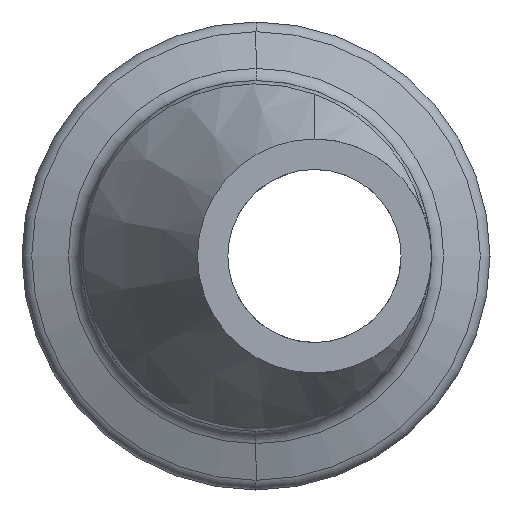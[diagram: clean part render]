
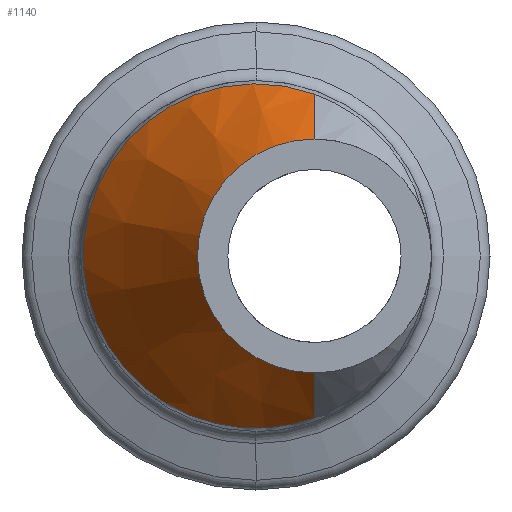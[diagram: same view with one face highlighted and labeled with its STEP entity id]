
A CAD part, left-side view. The second image highlights one B-rep face of the part: STEP entity #1140.
In plain terms, the highlighted conical face has half-angle 35 degrees and reference radius 6.35 mm.
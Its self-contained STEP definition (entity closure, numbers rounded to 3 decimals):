
#96 = CARTESIAN_POINT ( 'NONE',  ( -4.459, -3.174, -8.786 ) ) ;
#101 = ORIENTED_EDGE ( 'NONE', *, *, #392, .T. ) ;
#102 = CARTESIAN_POINT ( 'NONE',  ( -3.429, -1.108, -9.298 ) ) ;
#189 = CARTESIAN_POINT ( 'NONE',  ( -1.369, 3.504, 8.684 ) ) ;
#193 = CARTESIAN_POINT ( 'NONE',  ( -4.459, -3.174, 8.786 ) ) ;
#197 = CARTESIAN_POINT ( 'NONE',  ( -2.597, 0.682, 9.33 ) ) ;
#211 = CARTESIAN_POINT ( 'NONE',  ( -4.113, -2.496, 9.009 ) ) ;
#215 = CARTESIAN_POINT ( 'NONE',  ( -1.808, 2.466, 9.052 ) ) ;
#229 = CARTESIAN_POINT ( 'NONE',  ( 0.891, 9.286, 1.555 ) ) ;
#235 = CARTESIAN_POINT ( 'NONE',  ( -2.114, 1.76, 9.212 ) ) ;
#257 = CARTESIAN_POINT ( 'NONE',  ( -3.095, -0.4, -9.343 ) ) ;
#345 = CARTESIAN_POINT ( 'NONE',  ( 0.783, 8.991, 2.705 ) ) ;
#371 = CARTESIAN_POINT ( 'NONE',  ( -3.261, -0.751, 9.321 ) ) ;
#386 = CARTESIAN_POINT ( 'NONE',  ( 0.926, 9.382, -0.412 ) ) ;
#392 = EDGE_CURVE ( 'NONE', #598, #464, #665, .T. ) ;
#418 = EDGE_LOOP ( 'NONE', ( #743, #101, #1331, #1077 ) ) ;
#425 = FACE_OUTER_BOUND ( 'NONE', #418, .T. ) ;
#440 = CARTESIAN_POINT ( 'NONE',  ( -7.938, -3.174, 6.35 ) ) ;
#456 = AXIS2_PLACEMENT_3D ( 'NONE', #769, #1295, #892 ) ;
#464 = VERTEX_POINT ( 'NONE', #963 ) ;
#467 = CARTESIAN_POINT ( 'NONE',  ( 0.927, 9.384, 0.776 ) ) ;
#474 = CARTESIAN_POINT ( 'NONE',  ( 0.879, 9.254, -1.592 ) ) ;
#478 = CARTESIAN_POINT ( 'NONE',  ( -2.762, 0.32, 9.348 ) ) ;
#486 = CARTESIAN_POINT ( 'NONE',  ( 0.917, 9.356, -0.811 ) ) ;
#494 = CARTESIAN_POINT ( 'NONE',  ( 0.779, 8.982, -2.733 ) ) ;
#513 = CARTESIAN_POINT ( 'NONE',  ( 0.852, 9.179, -1.976 ) ) ;
#535 = CARTESIAN_POINT ( 'NONE',  ( -7.938, -3.174, -6.35 ) ) ;
#590 = CARTESIAN_POINT ( 'NONE',  ( 0.177, 7.377, 5.796 ) ) ;
#595 = CARTESIAN_POINT ( 'NONE',  ( 0.625, 8.566, -3.839 ) ) ;
#598 = VERTEX_POINT ( 'NONE', #440 ) ;
#604 = CARTESIAN_POINT ( 'NONE',  ( 0.422, 8.024, -4.866 ) ) ;
#617 = EDGE_CURVE ( 'NONE', #1159, #1558, #1212, .T. ) ;
#644 = DIRECTION ( 'NONE',  ( 0.819, 0., 0.574 ) ) ;
#655 = CIRCLE ( 'NONE', #456, 6.35 ) ;
#665 = LINE ( 'NONE', #881, #965 ) ;
#681 = AXIS2_PLACEMENT_3D ( 'NONE', #1485, #1626, #1530 ) ;
#695 = DIRECTION ( 'NONE',  ( 0.819, 0., -0.574 ) ) ;
#709 = CARTESIAN_POINT ( 'NONE',  ( 0.563, 8.399, -4.19 ) ) ;
#712 = CARTESIAN_POINT ( 'NONE',  ( 0.173, 7.366, -5.81 ) ) ;
#723 = CARTESIAN_POINT ( 'NONE',  ( 0.344, 7.818, -5.189 ) ) ;
#738 = CARTESIAN_POINT ( 'NONE',  ( -3.769, -1.804, 9.173 ) ) ;
#743 = ORIENTED_EDGE ( 'NONE', *, *, #1388, .T. ) ;
#769 = CARTESIAN_POINT ( 'NONE',  ( -7.938, -3.174, 0. ) ) ;
#825 = VECTOR ( 'NONE', #695, 1000. ) ;
#848 = CARTESIAN_POINT ( 'NONE',  ( 0.35, 7.831, 5.169 ) ) ;
#851 = B_SPLINE_CURVE_WITH_KNOTS ( 'NONE', 3,
 ( #193, #856, #211, #738, #1091, #371, #1245, #478, #197, #235, #215, #189, #1504, #1117, #1238, #1664, #1228, #1378, #1646, #1249, #590, #848, #1110, #1682, #1383, #960, #345, #229, #467, #386, #486, #474, #513, #494, #858, #595, #709, #604, #723, #712, #886, #860, #1024, #1018, #984, #1171, #1153, #1130, #1267, #1259, #1254, #257, #102, #993, #1143, #1553, #1510 ),
 .UNSPECIFIED., .F., .F.,
 ( 4, 2, 2, 2, 2, 2, 2, 2, 2, 2, 2, 2, 2, 2, 2, 2, 2, 2, 2, 2, 2, 2, 2, 2, 2, 2, 1, 2, 4 ),
 ( 0.018, 0.019, 0.021, 0.022, 0.023, 0.025, 0.026, 0.028, 0.029, 0.03, 0.031, 0.032, 0.034, 0.035, 0.037, 0.038, 0.04, 0.041, 0.042, 0.043, 0.044, 0.047, 0.048, 0.049, 0.051, 0.053, 0.054, 0.055, 0.056 ),
 .UNSPECIFIED. ) ;
#856 = CARTESIAN_POINT ( 'NONE',  ( -4.287, -2.84, 8.906 ) ) ;
#858 = CARTESIAN_POINT ( 'NONE',  ( 0.734, 8.86, -3.107 ) ) ;
#860 = CARTESIAN_POINT ( 'NONE',  ( -0.225, 6.333, -6.947 ) ) ;
#881 = CARTESIAN_POINT ( 'NONE',  ( -7.938, -3.174, 6.35 ) ) ;
#886 = CARTESIAN_POINT ( 'NONE',  ( 0.078, 7.119, -6.108 ) ) ;
#892 = DIRECTION ( 'NONE',  ( 0., 0., -1. ) ) ;
#960 = CARTESIAN_POINT ( 'NONE',  ( 0.737, 8.869, 3.081 ) ) ;
#963 = CARTESIAN_POINT ( 'NONE',  ( -4.459, -3.174, 8.786 ) ) ;
#965 = VECTOR ( 'NONE', #644, 1000. ) ;
#984 = CARTESIAN_POINT ( 'NONE',  ( -0.96, 4.494, -8.22 ) ) ;
#993 = CARTESIAN_POINT ( 'NONE',  ( -3.769, -1.805, -9.173 ) ) ;
#1018 = CARTESIAN_POINT ( 'NONE',  ( -0.828, 4.82, -8.035 ) ) ;
#1024 = CARTESIAN_POINT ( 'NONE',  ( -0.451, 5.756, -7.426 ) ) ;
#1077 = ORIENTED_EDGE ( 'NONE', *, *, #617, .F. ) ;
#1091 = CARTESIAN_POINT ( 'NONE',  ( -3.598, -1.455, 9.236 ) ) ;
#1110 = CARTESIAN_POINT ( 'NONE',  ( 0.429, 8.041, 4.838 ) ) ;
#1117 = CARTESIAN_POINT ( 'NONE',  ( -0.953, 4.511, 8.211 ) ) ;
#1130 = CARTESIAN_POINT ( 'NONE',  ( -1.811, 2.458, -9.054 ) ) ;
#1140 = ADVANCED_FACE ( 'NONE', ( #425 ), #1379, .T. ) ;
#1143 = CARTESIAN_POINT ( 'NONE',  ( -4.113, -2.497, -9.009 ) ) ;
#1153 = CARTESIAN_POINT ( 'NONE',  ( -1.376, 3.488, -8.69 ) ) ;
#1159 = VERTEX_POINT ( 'NONE', #1568 ) ;
#1171 = CARTESIAN_POINT ( 'NONE',  ( -1.235, 3.826, -8.548 ) ) ;
#1212 = LINE ( 'NONE', #535, #825 ) ;
#1228 = CARTESIAN_POINT ( 'NONE',  ( -0.454, 5.752, 7.401 ) ) ;
#1238 = CARTESIAN_POINT ( 'NONE',  ( -0.823, 4.832, 8.028 ) ) ;
#1245 = CARTESIAN_POINT ( 'NONE',  ( -3.094, -0.396, 9.343 ) ) ;
#1249 = CARTESIAN_POINT ( 'NONE',  ( 0.083, 7.132, 6.093 ) ) ;
#1254 = CARTESIAN_POINT ( 'NONE',  ( -2.765, 0.313, -9.348 ) ) ;
#1259 = CARTESIAN_POINT ( 'NONE',  ( -2.601, 0.673, -9.33 ) ) ;
#1267 = CARTESIAN_POINT ( 'NONE',  ( -2.117, 1.754, -9.213 ) ) ;
#1295 = DIRECTION ( 'NONE',  ( 1., 0., 0. ) ) ;
#1331 = ORIENTED_EDGE ( 'NONE', *, *, #1522, .T. ) ;
#1378 = CARTESIAN_POINT ( 'NONE',  ( -0.227, 6.329, 6.918 ) ) ;
#1379 = CONICAL_SURFACE ( 'NONE', #681, 6.35, 0.611 ) ;
#1383 = CARTESIAN_POINT ( 'NONE',  ( 0.631, 8.581, 3.806 ) ) ;
#1388 = EDGE_CURVE ( 'NONE', #1159, #598, #655, .T. ) ;
#1485 = CARTESIAN_POINT ( 'NONE',  ( -7.938, -3.174, 0. ) ) ;
#1504 = CARTESIAN_POINT ( 'NONE',  ( -1.226, 3.848, 8.539 ) ) ;
#1510 = CARTESIAN_POINT ( 'NONE',  ( -4.459, -3.174, -8.786 ) ) ;
#1522 = EDGE_CURVE ( 'NONE', #464, #1558, #851, .T. ) ;
#1530 = DIRECTION ( 'NONE',  ( 0., 0., -1. ) ) ;
#1553 = CARTESIAN_POINT ( 'NONE',  ( -4.287, -2.84, -8.906 ) ) ;
#1558 = VERTEX_POINT ( 'NONE', #96 ) ;
#1568 = CARTESIAN_POINT ( 'NONE',  ( -7.938, -3.174, -6.35 ) ) ;
#1626 = DIRECTION ( 'NONE',  ( 1., 0., 0. ) ) ;
#1646 = CARTESIAN_POINT ( 'NONE',  ( -0.119, 6.608, 6.654 ) ) ;
#1664 = CARTESIAN_POINT ( 'NONE',  ( -0.573, 5.452, 7.623 ) ) ;
#1682 = CARTESIAN_POINT ( 'NONE',  ( 0.569, 8.415, 4.157 ) ) ;
